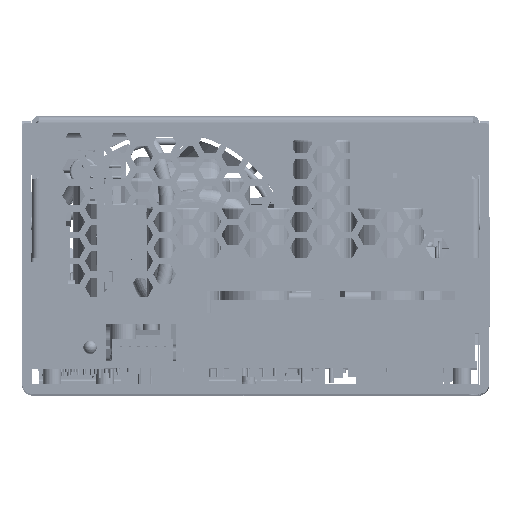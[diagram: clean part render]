
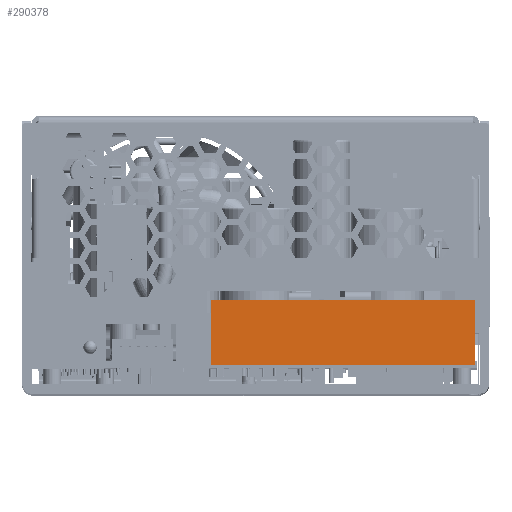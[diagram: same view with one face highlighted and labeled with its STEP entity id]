
A CAD part, top view. The second image highlights one B-rep face of the part: STEP entity #290378.
In plain terms, the highlighted planar face has unit normal (-0.001, 0, 1) as drawn and (0, 1, 0) by its records, which use the part's own axes.
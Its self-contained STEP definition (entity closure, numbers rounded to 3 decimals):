
#1400 = VECTOR ( 'NONE', #156092, 1000. ) ;
#10826 = ORIENTED_EDGE ( 'NONE', *, *, #19545, .F. ) ;
#19545 = EDGE_CURVE ( 'NONE', #183688, #32242, #100425, .T. ) ;
#21101 = LINE ( 'NONE', #210760, #29048 ) ;
#29048 = VECTOR ( 'NONE', #134578, 1000. ) ;
#30725 = CARTESIAN_POINT ( 'NONE',  ( 6., 5.501, 60.16 ) ) ;
#32242 = VERTEX_POINT ( 'NONE', #180027 ) ;
#33504 = EDGE_CURVE ( 'NONE', #183688, #139099, #202193, .T. ) ;
#36043 = AXIS2_PLACEMENT_3D ( 'NONE', #271843, #96721, #272917 ) ;
#46997 = ORIENTED_EDGE ( 'NONE', *, *, #33504, .T. ) ;
#54232 = FACE_OUTER_BOUND ( 'NONE', #85639, .T. ) ;
#63482 = VERTEX_POINT ( 'NONE', #204011 ) ;
#74463 = CARTESIAN_POINT ( 'NONE',  ( 6., 5.501, 60.16 ) ) ;
#85639 = EDGE_LOOP ( 'NONE', ( #230838, #10826, #46997, #185692 ) ) ;
#87513 = LINE ( 'NONE', #74463, #138541 ) ;
#96721 = DIRECTION ( 'NONE',  ( 0., 1., 0. ) ) ;
#100425 = LINE ( 'NONE', #220931, #226569 ) ;
#134578 = DIRECTION ( 'NONE',  ( 1., 0., 0. ) ) ;
#138541 = VECTOR ( 'NONE', #175664, 1000. ) ;
#139099 = VERTEX_POINT ( 'NONE', #297822 ) ;
#156092 = DIRECTION ( 'NONE',  ( 1., 0., 0. ) ) ;
#168330 = EDGE_CURVE ( 'NONE', #32242, #63482, #21101, .T. ) ;
#175664 = DIRECTION ( 'NONE',  ( 0., 0., -1. ) ) ;
#180027 = CARTESIAN_POINT ( 'NONE',  ( -9., 5.501, 0. ) ) ;
#183688 = VERTEX_POINT ( 'NONE', #189652 ) ;
#185692 = ORIENTED_EDGE ( 'NONE', *, *, #219499, .T. ) ;
#189652 = CARTESIAN_POINT ( 'NONE',  ( -9., 5.501, 60.16 ) ) ;
#202193 = LINE ( 'NONE', #30725, #1400 ) ;
#204011 = CARTESIAN_POINT ( 'NONE',  ( 6., 5.501, 0. ) ) ;
#210760 = CARTESIAN_POINT ( 'NONE',  ( 6., 5.501, 0. ) ) ;
#219499 = EDGE_CURVE ( 'NONE', #139099, #63482, #87513, .T. ) ;
#220931 = CARTESIAN_POINT ( 'NONE',  ( -9., 5.501, 60.16 ) ) ;
#226569 = VECTOR ( 'NONE', #272645, 1000. ) ;
#230838 = ORIENTED_EDGE ( 'NONE', *, *, #168330, .F. ) ;
#271843 = CARTESIAN_POINT ( 'NONE',  ( 6., 5.501, 60.16 ) ) ;
#272645 = DIRECTION ( 'NONE',  ( 0., 0., -1. ) ) ;
#272917 = DIRECTION ( 'NONE',  ( 0., 0., 1. ) ) ;
#290378 = ADVANCED_FACE ( 'NONE', ( #54232 ), #297118, .T. ) ;
#297118 = PLANE ( 'NONE',  #36043 ) ;
#297822 = CARTESIAN_POINT ( 'NONE',  ( 6., 5.501, 60.16 ) ) ;
